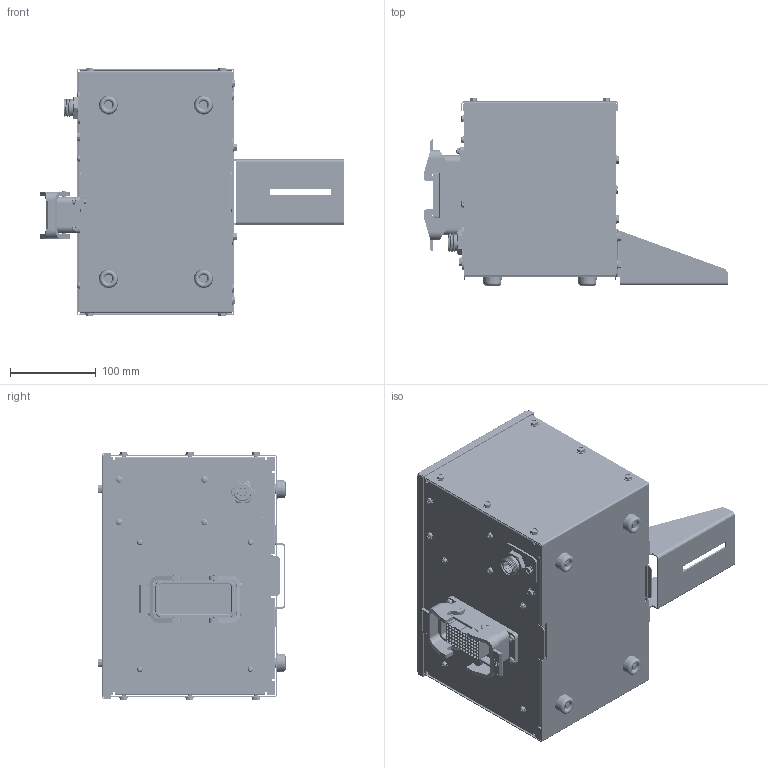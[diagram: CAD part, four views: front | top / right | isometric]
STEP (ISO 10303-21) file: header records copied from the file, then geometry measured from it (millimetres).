
FILE_DESCRIPTION (( 'STEP AP214' ), '1' );
FILE_NAME ('301547.STEP', '2022-07-27T13:00:39', ( '' ), ( '' ), 'SwSTEP 2.0', 'SolidWorks 2020', '' );
FILE_SCHEMA (( 'AUTOMOTIVE_DESIGN' ));
Length unit declared in the file: inch
Products named in the file (53): 285339; 284939; 190870; 201058-1; 285035; 601859; 190862; 156734; 215871; 190865; 190866; 243871; 301547-1; 190864; 082193; 234441; 285036; 261746; 285068; 190863; 285048; 285278; 301547; 129351; 09160009908_100095472MOD000A; 196013; 285340_BACK; 283616; 288693; 285069; LABEL,SERIAL NUMBER 1.000 X 1.625; 283618Apcb; 133368; 285277; 601835; Label Die 05 - 5.000 x 7.000; 119873; 239388; 285375; 153503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
Assembly tree (134 placements, depth 3):
  301547
    284939
    285339
    285340_BACK
    285036
    285035
    285068
      285068
      285277
      285278
    285069
    239388  x4
    224012
    201058
      201058-1
      201058-2
    285048
      243871
      263789
    283616
      283618Apcb
      153503  x3
      215871
      190865
      190864 CONN_MOLEX39_29_9063_6P  x2
      190866
      190862
      190863
      190870
    285747
    285375
    LABEL,SERIAL NUMBER 1.000 X 1.625
    Label Die 05 - 5.000 x 7.000
    301547-1
      301547-1
      133368
      09160009908_100095472MOD000A  x12
      190864
      234441  x3
    288693
    082193  x25
    097132  x8
    261746  x4
    256365_90316A827  x2
    196013  x8
    227191  x8
    106702  x4
    129351  x4
    119873  x4
    601859  x4
    156734  x2
    122210
    601835  x2
Bounding box: 355.59 x 218.76 x 290.68 mm (x, y, z)
Volume: 1055360.3 mm3; surface area: 1377105.6 mm2
Topology: 146 solids, 179 shells, 16758 faces, 43056 edges, 28267 vertices
Faces by surface type: plane 11884, cylinder 3504, bspline 588, cone 540, sphere 134, torus 108
Entity records: 346125 total; most frequent: CARTESIAN_POINT 82681, ORIENTED_EDGE 48473, DIRECTION 45696, EDGE_CURVE 24415, LINE 18466, VECTOR 18466, VERTEX_POINT 16076, AXIS2_PLACEMENT_3D 13615
